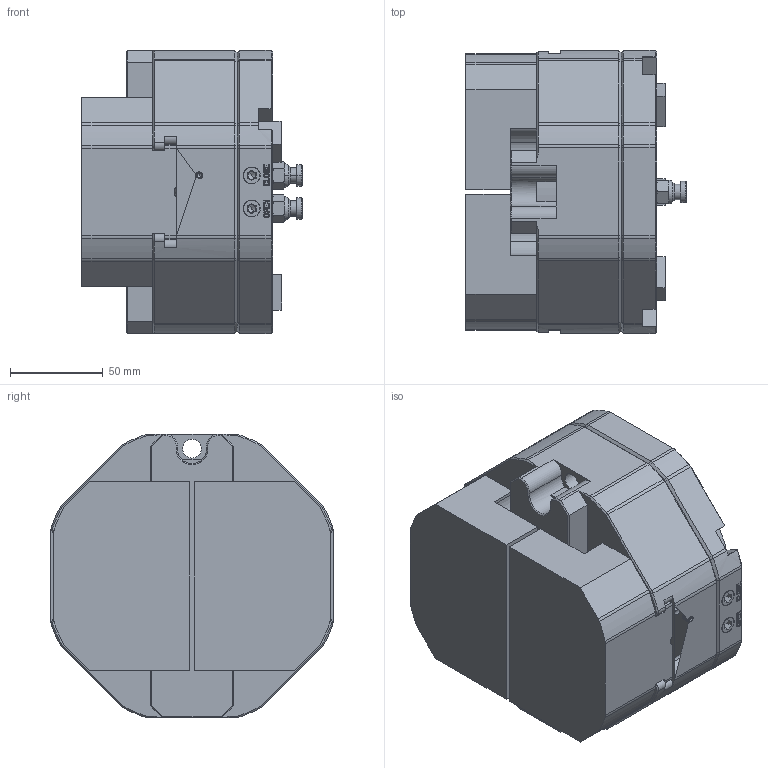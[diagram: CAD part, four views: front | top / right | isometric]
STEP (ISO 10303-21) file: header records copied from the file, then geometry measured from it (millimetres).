
FILE_DESCRIPTION (( 'STEP AP214' ), '1' );
FILE_NAME ('AV_ROTARY_VICEOnePart.STEP', '2019-07-30T16:03:01', ( '' ), ( '' ), 'SwSTEP 2.0', 'SolidWorks 2017', '' );
FILE_SCHEMA (( 'AUTOMOTIVE_DESIGN' ));
Length unit declared in the file: inch
Products named in the file (1): AV_ROTARY_VICEOnePart
Bounding box: 118.42 x 152.4 x 152.4 mm (x, y, z)
Volume: 1761783.4 mm3; surface area: 129702.7 mm2
Topology: 1 solids, 6 shells, 1145 faces, 2653 edges, 1598 vertices
Faces by surface type: plane 466, cone 334, cylinder 280, bspline 49, torus 8, sphere 8
Entity records: 59427 total; most frequent: CARTESIAN_POINT 19392, ORIENTED_EDGE 5290, DIRECTION 5275, EDGE_CURVE 2645, AXIS2_PLACEMENT_3D 1952, VERTEX_POINT 1598, LINE 1371, VECTOR 1371
